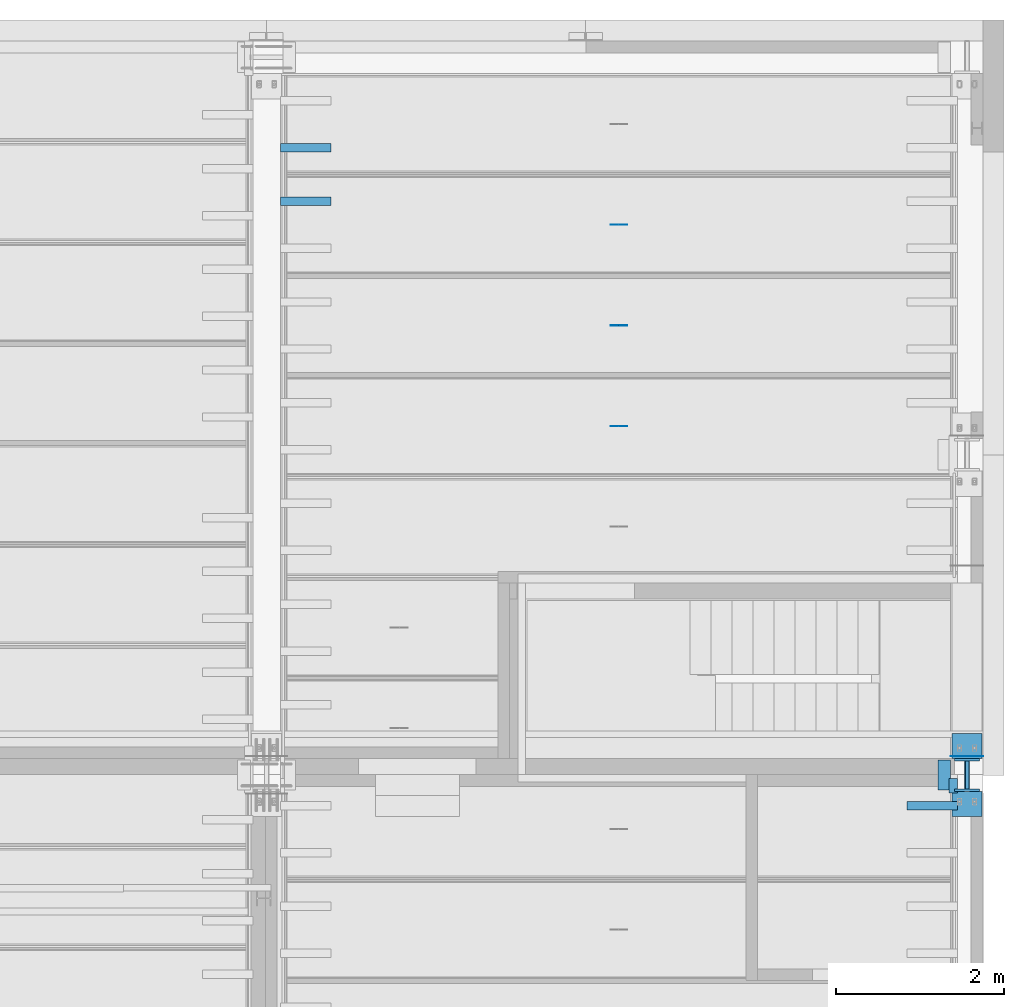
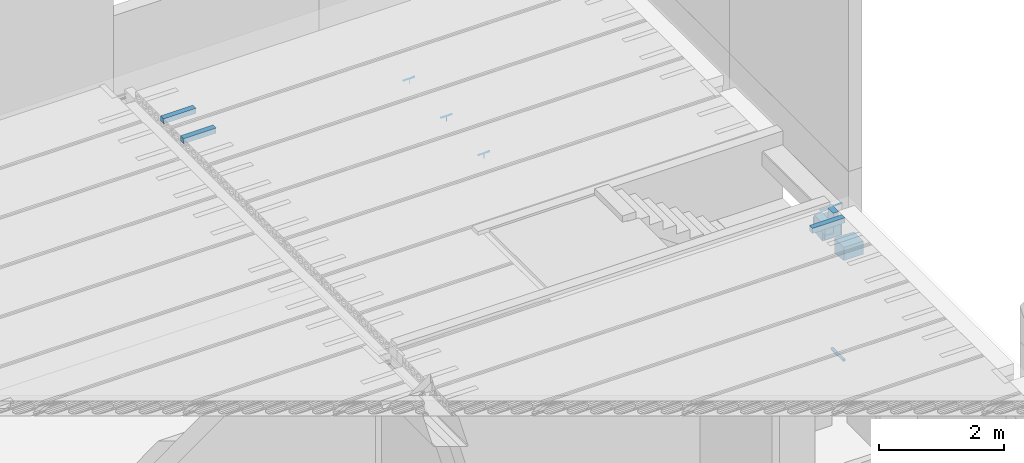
# One storey, part 27 of 230: 17 beams.
"""IFC4X3_ADD2 building model written with IfcOpenShell, lengths in millimetres."""

import ifcopenshell
import ifcopenshell.guid

model = None  # the IFC model being written
_history = None  # IfcOwnerHistory: only IFC2X3 demands one
_inside = {}  # id of a spatial element -> (the spatial element, [elements in it])
_under = {}  # id of a project, library or spatial element -> (it, [spatial elements below it])
_declared = {}  # id of a project -> (the project, [libraries it declares])
_typed = {}  # id of a type object -> (the type object, [elements of that type])
_made_of = {}  # id of a material, layer set ... -> (it, [elements and type objects made of it])


def new_model(schema):
    """Start an empty IFC model of exactly this schema.

    Asked for "IFC4X3", IfcOpenShell would pick the latest addendum, in which some entities
    have other attributes; the version numbers below select the first issue.
    IFC2X3 requires an IfcOwnerHistory on every rooted entity: one is made here for all.
    """
    global model, _history
    if schema == "IFC4X3":
        model = ifcopenshell.file(schema_version=(4, 3, 0, 0))
    else:
        model = ifcopenshell.file(schema=schema)
    _inside.clear()
    _under.clear()
    _declared.clear()
    _typed.clear()
    _made_of.clear()
    _history = None
    if model.schema == "IFC2X3":
        org = make("IfcOrganization", Name="unknown")
        user = make(
            "IfcPersonAndOrganization",
            ThePerson=make("IfcPerson", FamilyName="unknown"),
            TheOrganization=org,
        )
        app = make(
            "IfcApplication",
            ApplicationDeveloper=org,
            Version="unknown",
            ApplicationFullName="unknown",
            ApplicationIdentifier="unknown",
        )
        _history = make(
            "IfcOwnerHistory",
            OwningUser=user,
            OwningApplication=app,
            ChangeAction="ADDED",
            CreationDate=0,
        )
    return model


def make(cls, **values):
    """One entity of the class cls with the attributes given. An attribute that is None is left unset."""
    return model.create_entity(
        cls, **{name: value for name, value in values.items() if value is not None}
    )


def entity(cls, *values):
    """Any entity or typed value of the class cls, its attributes in the order of the schema. None: left unset."""
    e = model.create_entity(cls)
    for i, value in enumerate(values):
        if value is not None:
            e[i] = value
    return e


def rooted(cls, **values):
    """An entity with a GlobalId (a new one), such as an element, a storey or a relation."""
    return make(cls, GlobalId=ifcopenshell.guid.new(), OwnerHistory=_history, **values)


def si_unit(unit_type, name, prefix=None):
    """IfcSIUnit, for example si_unit("LENGTHUNIT", "METRE", prefix="MILLI")."""
    return make("IfcSIUnit", UnitType=unit_type, Prefix=prefix, Name=name)


def assignment(units):
    """IfcUnitAssignment: the units of a project."""
    return None if units is None else make("IfcUnitAssignment", Units=units)


def point(xyz):
    """IfcCartesianPoint."""
    return None if xyz is None else make("IfcCartesianPoint", Coordinates=xyz)


def direction(xyz):
    """IfcDirection."""
    return None if xyz is None else make("IfcDirection", DirectionRatios=xyz)


def frame(location, z_axis=None, x_axis=None):
    """IfcAxis2Placement3D, a coordinate frame: its origin and axes. An axis left out is left unset."""
    return make(
        "IfcAxis2Placement3D",
        Location=point(location),
        Axis=direction(z_axis),
        RefDirection=direction(x_axis),
    )


def frame_2d(location, x_axis=None):
    """IfcAxis2Placement2D, a coordinate frame in the plane: its origin and x axis."""
    return make(
        "IfcAxis2Placement2D", Location=point(location), RefDirection=direction(x_axis)
    )


def origin_with_axes():
    """The frame at (0, 0, 0) with the z axis (0, 0, 1) and the x axis (1, 0, 0) written out."""
    return frame((0.0, 0.0, 0.0), z_axis=(0.0, 0.0, 1.0), x_axis=(1.0, 0.0, 0.0))


def place(relative_to, where):
    """IfcLocalPlacement: puts the frame where relative to a parent placement (None: the world)."""
    return make(
        "IfcLocalPlacement", PlacementRelTo=relative_to, RelativePlacement=where
    )


def context(
    kind, dimensions, precision=None, world=None, true_north=None, identifier=None
):
    """IfcGeometricRepresentationContext, for example the 3D "Model" context."""
    return make(
        "IfcGeometricRepresentationContext",
        ContextIdentifier=identifier,
        ContextType=kind,
        CoordinateSpaceDimension=dimensions,
        Precision=precision,
        WorldCoordinateSystem=world,
        TrueNorth=true_north,
    )


def subcontext(parent, identifier, kind, view, scale=None):
    """IfcGeometricRepresentationSubContext, for example "Body" below "Model"."""
    return make(
        "IfcGeometricRepresentationSubContext",
        ContextIdentifier=identifier,
        ContextType=kind,
        ParentContext=parent,
        TargetScale=scale,
        TargetView=view,
    )


def project(units=None, contexts=None):
    """IfcProject with its units and contexts."""
    return rooted(
        "IfcProject",
        Name="project",
        RepresentationContexts=contexts,
        UnitsInContext=assignment(units),
    )


def spatial(cls, under=None, at=None, **own):
    """A site, building, storey or space (cls), placed at a placement, below another one or the project."""
    s = rooted(cls, ObjectPlacement=at, **own)
    if under is not None:
        _under.setdefault(under.id(), (under, []))[1].append(s)
    return s


def profile(cls, at=None, kind="AREA", **sizes):
    """A parametric profile (cls). Its sizes go by their IFC names, for example OverallWidth=200.0."""
    return make(cls, ProfileType=kind, Position=at, **sizes)


def rectangle(**sizes):
    """IfcRectangleProfileDef."""
    return profile("IfcRectangleProfileDef", **sizes)


def hollow_circle(**sizes):
    """IfcCircleHollowProfileDef."""
    return profile("IfcCircleHollowProfileDef", **sizes)


def extrude(swept, where, along, depth):
    """IfcExtrudedAreaSolid: the profile swept, set in the frame where, extruded along a direction by depth."""
    return make(
        "IfcExtrudedAreaSolid",
        SweptArea=swept,
        Position=where,
        ExtrudedDirection=direction(along),
        Depth=depth,
    )


def shape(context_of_items, identifier, shape_type, items):
    """IfcShapeRepresentation: the items that make up one representation, for example the "Body"."""
    return make(
        "IfcShapeRepresentation",
        ContextOfItems=context_of_items,
        RepresentationIdentifier=identifier,
        RepresentationType=shape_type,
        Items=items,
    )


def material(Name=None, Category=None):
    """IfcMaterial."""
    return make("IfcMaterial", Name=Name, Category=Category)


def made_of(thing, what):
    """Note that an element or type object is made of a material, layer set ...; save() writes the relation."""
    if what is not None:
        _made_of.setdefault(what.id(), (what, []))[1].append(thing)
    return thing


def element(
    cls,
    number,
    at=None,
    inside=None,
    cuts=None,
    type_object=None,
    material=None,
    context=None,
    identifier="Body",
    shape_type=None,
    held_by="IfcProductDefinitionShape",
    body=None,
    shapes=None,
    **own,
):
    """One element of the class cls, such as IfcWall. Its Tag is "e" and its number.

    at: its placement. inside: the storey or other place that contains it. cuts: it is an
    opening in that element (IfcRelVoidsElement). A single representation is given by context,
    identifier, shape_type and body (its items); several are given by shapes. held_by: the class
    of the entity that holds the representations. save() writes the other relations.
    """
    e = rooted(cls, Tag="e%d" % number, ObjectPlacement=at, **own)
    if body is not None:
        shapes = [shape(context, identifier, shape_type, body)]
    if shapes is not None:
        e.Representation = make(held_by, Representations=shapes)
    if inside is not None:
        _inside.setdefault(inside.id(), (inside, []))[1].append(e)
    if cuts is not None:
        rooted(
            "IfcRelVoidsElement", RelatingBuildingElement=cuts, RelatedOpeningElement=e
        )
    if type_object is not None:
        _typed.setdefault(type_object.id(), (type_object, []))[1].append(e)
    return made_of(e, material)


def aggregate(whole, parts):
    """IfcRelAggregates: a whole, such as a stair, and the parts it consists of."""
    return rooted("IfcRelAggregates", RelatingObject=whole, RelatedObjects=parts)


def save(model, path):
    """Write the relations noted so far, then the file.

    IfcRelAggregates (storeys below a building ...), IfcRelContainedInSpatialStructure (elements
    in a storey), IfcRelDefinesByType, IfcRelAssociatesMaterial and IfcRelDeclares: one each for
    every whole, place, type object, material and project.
    """
    for whole, parts in _under.values():
        aggregate(whole, parts)
    for where, things in _inside.values():
        rooted(
            "IfcRelContainedInSpatialStructure",
            RelatedElements=things,
            RelatingStructure=where,
        )
    for kind, things in _typed.values():
        rooted("IfcRelDefinesByType", RelatedObjects=things, RelatingType=kind)
    for what, things in _made_of.values():
        rooted("IfcRelAssociatesMaterial", RelatedObjects=things, RelatingMaterial=what)
    for by, libraries in _declared.values():
        rooted("IfcRelDeclares", RelatingContext=by, RelatedDefinitions=libraries)
    model.write(path)


model = new_model("IFC4X3_ADD2")

# Units and contexts
model_context = context("Model", 3, precision=1e-05, world=origin_with_axes(), true_north=direction((0.0, 1.0)))
body_context = subcontext(model_context, "Body", "Model", "MODEL_VIEW")
ifc_project = project(units=[si_unit("LENGTHUNIT", "METRE", prefix="MILLI"), si_unit("AREAUNIT", "SQUARE_METRE"), si_unit("VOLUMEUNIT", "CUBIC_METRE"), si_unit("PLANEANGLEUNIT", "RADIAN"), si_unit("TIMEUNIT", "SECOND"), si_unit("MASSUNIT", "GRAM")], contexts=[model_context])

# Site, building, storey
site_placement = place(None, origin_with_axes())
site = spatial("IfcSite", under=ifc_project, at=site_placement, Name="Site", CompositionType="ELEMENT")
building_placement = place(site_placement, origin_with_axes())
building = spatial("IfcBuilding", under=site, at=building_placement, Name="IFC Building Story")
storey_placement = place(building_placement, origin_with_axes())
storey = spatial("IfcBuildingStorey", under=building, at=storey_placement, Name="ETAGE 00 (0)", Elevation=0.0)

# Beams
ifc_material_1 = material(Name="STEEL/Accessory_C50/60 64192")
for number, where, z_axis, x_axis, name in (
    (1, (48131.1886362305, 17459.9996109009, 3540.0), (1.0, 0.0, 0.0), (0.0, 0.0, 1.0), "BEK1"),
    (2, (48491.18863623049, 18149.9996109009, 3540.0), (-1.0, 0.0, 0.0), (0.0, 0.0, 1.0), "BEK1"),
):
    element("IfcBeam", number, at=place(storey_placement, frame(where, z_axis=z_axis, x_axis=x_axis)), inside=storey, material=ifc_material_1, Name=name, ObjectType="CORBEL300-300-260", context=body_context, shape_type="SweptSolid", body=[
        extrude(entity("IfcTrapeziumProfileDef", "AREA", None, entity("IfcAxis2Placement2D", entity("IfcCartesianPoint", [0.0, 5.95523630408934e-12]), entity("IfcDirection", [1.0, 0.0])), 300.0, 260.0, 300.0, 40.0), origin_with_axes(), (0.0, 0.0, 1.0), 359.9999999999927),
    ])
beam_1_placement = place(storey_placement, frame((48041.1886362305, 17984.9996109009, 3875.0), z_axis=(0.0, -1.0, 0.0), x_axis=(0.0, 0.0, 1.0)))
element("IfcBeam", 3, at=beam_1_placement, inside=storey, material=ifc_material_1, Name="BEK1", ObjectType="CORBEL200-150-180", context=body_context, shape_type="SweptSolid", body=[
    extrude(entity("IfcTrapeziumProfileDef", "AREA", None, entity("IfcAxis2Placement2D", entity("IfcCartesianPoint", [0.0, 5.95523630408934e-12]), entity("IfcDirection", [1.0, 0.0])), 200.0, 180.0, 150.0, 19.9999999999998), origin_with_axes(), (0.0, 0.0, 1.0), 360.0),
])
ifc_material_2 = material(Name="STEEL/Accessory_invisible 261")
beam_2_placement = place(storey_placement, frame((44164.189, 21960.0006103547, 4049.9999909), z_axis=(-1.0, 0.0, 0.0), x_axis=(0.0, 0.0, -1.0)))
element("IfcBeam", 4, at=beam_2_placement, inside=storey, material=ifc_material_2, Name="ES6", ObjectType="1*1 2", context=body_context, shape_type="SweptSolid", body=[
    extrude(rectangle(XDim=100.0, YDim=0.9999999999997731, at=frame_2d((0.0, 5.95523630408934e-12), x_axis=(1.0, 0.0))), origin_with_axes(), (0.0, 0.0, 1.0), 1.0),
])
beam_3_placement = place(storey_placement, frame((44263.689, 21960.0006103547, 4100.0), z_axis=(-1.0, 0.0, 0.0), x_axis=(0.0, 1.0, 0.0)))
element("IfcBeam", 5, at=beam_3_placement, inside=storey, material=ifc_material_2, Name="ES31", ObjectType="1*1 3", context=body_context, shape_type="SweptSolid", body=[
    extrude(rectangle(XDim=0.9999999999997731, YDim=0.9999999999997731, at=frame_2d((0.0, 5.95523630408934e-12), x_axis=(1.0, 0.0))), origin_with_axes(), (0.0, 0.0, 1.0), 199.9999999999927),
])
ifc_material_3 = material(Name="STEEL/Accessory_invisible")
beam_4_placement = place(storey_placement, frame((48196.18900000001, 17675.0, 4100.0), z_axis=(-1.0, 0.0, 0.0), x_axis=(0.0, 0.0, 1.0)))
element("IfcBeam", 6, at=beam_4_placement, inside=storey, material=ifc_material_3, Name="ES32", ObjectType="200*170", context=body_context, shape_type="SweptSolid", body=[
    extrude(rectangle(XDim=200.0, YDim=169.999999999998, at=frame_2d((0.0, 5.95523630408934e-12), x_axis=(1.0, 0.0))), origin_with_axes(), (0.0, 0.0, 1.0), 100.0),
])
beam_5_placement = place(storey_placement, frame((48196.18900000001, 17440.0, 4150.0), z_axis=(-1.0, 0.0, 0.0), x_axis=(0.0, -1.0, 0.0)))
element("IfcBeam", 7, at=beam_5_placement, inside=storey, material=ifc_material_3, Name="ES7", ObjectType="100*100", context=body_context, shape_type="SweptSolid", body=[
    extrude(rectangle(XDim=100.0, YDim=99.99999999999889, at=frame_2d((0.0, 5.95523630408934e-12), x_axis=(1.0, 0.0))), origin_with_axes(), (0.0, 0.0, 1.0), 600.0),
])
ifc_material_4 = material(Name="STEEL/Accessory_EPS")
for number, where, z_axis, x_axis, name in (
    (8, (48461.1886362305, 17624.9996109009, 3544.99999999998), (-1.0, 0.0, 0.0), (0.0, 0.0, 1.0), "POL4"),
    (9, (48461.1886362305, 17984.9996109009, 3544.99999999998), (-1.0, 0.0, 0.0), (0.0, 0.0, 1.0), "POL4"),
):
    element("IfcBeam", number, at=place(storey_placement, frame(where, z_axis=z_axis, x_axis=x_axis)), inside=storey, material=ifc_material_4, Name=name, ObjectType="30*300", context=body_context, shape_type="SweptSolid", body=[
        extrude(rectangle(XDim=250.0, YDim=30.0000000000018, at=frame_2d((0.0, 5.95523630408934e-12), x_axis=(1.0, 0.0))), origin_with_axes(), (0.0, 0.0, 1.0), 300.0),
    ])
ifc_material_5 = material(Name="STEEL/Accessory_PVC")
beam_6_placement = place(storey_placement, frame((48311.1886362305, 17612.9996109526, 1240.0), z_axis=(0.0, 1.0, 0.0), x_axis=(1.0, 0.0, 0.0)))
element("IfcBeam", 10, at=beam_6_placement, inside=storey, material=ifc_material_5, Name="PS13", ObjectType="O56*3", context=body_context, shape_type="SweptSolid", body=[
    extrude(hollow_circle(Radius=28.0, WallThickness=3.0, at=frame_2d((0.0, 5.95523630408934e-12), x_axis=(1.0, 0.0))), origin_with_axes(), (0.0, 0.0, 1.0), 384.0),
])
beam_7_placement = place(storey_placement, frame((48505.586, 18029.9996109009, 3984.5), z_axis=(-1.0, 0.0, 0.0), x_axis=(0.0, 1.0, 0.0)))
element("IfcBeam", 11, at=beam_7_placement, inside=storey, material=ifc_material_3, Name="ZW3", ObjectType="1*1 3", context=body_context, shape_type="SweptSolid", body=[
    extrude(rectangle(XDim=0.9999999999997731, YDim=0.9999999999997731, at=frame_2d((0.0, 5.95523630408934e-12), x_axis=(1.0, 0.0))), origin_with_axes(), (0.0, 0.0, 1.0), 389.9000000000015),
])
beam_8_placement = place(storey_placement, frame((44164.189, 23160.0006103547, 4049.9999909), z_axis=(-1.0, 0.0, 0.0), x_axis=(0.0, 0.0, -1.0)))
element("IfcBeam", 12, at=beam_8_placement, inside=storey, material=ifc_material_2, Name="ES6", ObjectType="1*1 2", context=body_context, shape_type="SweptSolid", body=[
    extrude(rectangle(XDim=100.0, YDim=0.9999999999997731, at=frame_2d((0.0, 5.95523630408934e-12), x_axis=(1.0, 0.0))), origin_with_axes(), (0.0, 0.0, 1.0), 1.0),
])
beam_9_placement = place(storey_placement, frame((44263.689, 23160.0006103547, 4100.0), z_axis=(-1.0, 0.0, 0.0), x_axis=(0.0, 1.0, 0.0)))
element("IfcBeam", 13, at=beam_9_placement, inside=storey, material=ifc_material_2, Name="ES31", ObjectType="1*1 3", context=body_context, shape_type="SweptSolid", body=[
    extrude(rectangle(XDim=0.9999999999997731, YDim=0.9999999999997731, at=frame_2d((0.0, 5.95523630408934e-12), x_axis=(1.0, 0.0))), origin_with_axes(), (0.0, 0.0, 1.0), 199.9999999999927),
])
beam_10_placement = place(storey_placement, frame((40731.189, 24640.0006103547, 4150.0), z_axis=(-1.0, 0.0, 0.0), x_axis=(0.0, 1.0, 0.0)))
element("IfcBeam", 14, at=beam_10_placement, inside=storey, material=ifc_material_3, Name="ES7", ObjectType="100*100", context=body_context, shape_type="SweptSolid", body=[
    extrude(rectangle(XDim=100.0, YDim=99.99999999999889, at=frame_2d((0.0, 5.95523630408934e-12), x_axis=(1.0, 0.0))), origin_with_axes(), (0.0, 0.0, 1.0), 600.0),
])
beam_11_placement = place(storey_placement, frame((44164.189, 24360.0006103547, 4049.9999909), z_axis=(-1.0, 0.0, 0.0), x_axis=(0.0, 0.0, -1.0)))
element("IfcBeam", 15, at=beam_11_placement, inside=storey, material=ifc_material_2, Name="ES6", ObjectType="1*1 2", context=body_context, shape_type="SweptSolid", body=[
    extrude(rectangle(XDim=100.0, YDim=0.9999999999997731, at=frame_2d((0.0, 5.95523630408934e-12), x_axis=(1.0, 0.0))), origin_with_axes(), (0.0, 0.0, 1.0), 1.0),
])
beam_12_placement = place(storey_placement, frame((44263.689, 24360.0006103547, 4100.0), z_axis=(-1.0, 0.0, 0.0), x_axis=(0.0, 1.0, 0.0)))
element("IfcBeam", 16, at=beam_12_placement, inside=storey, material=ifc_material_2, Name="ES31", ObjectType="1*1 3", context=body_context, shape_type="SweptSolid", body=[
    extrude(rectangle(XDim=0.9999999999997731, YDim=0.9999999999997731, at=frame_2d((0.0, 5.95523630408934e-12), x_axis=(1.0, 0.0))), origin_with_axes(), (0.0, 0.0, 1.0), 199.9999999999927),
])
beam_13_placement = place(storey_placement, frame((40731.189, 25280.0006103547, 4150.0), z_axis=(-1.0, 0.0, 0.0), x_axis=(0.0, 1.0, 0.0)))
element("IfcBeam", 17, at=beam_13_placement, inside=storey, material=ifc_material_3, Name="ES7", ObjectType="100*100", context=body_context, shape_type="SweptSolid", body=[
    extrude(rectangle(XDim=100.0, YDim=99.99999999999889, at=frame_2d((0.0, 5.95523630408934e-12), x_axis=(1.0, 0.0))), origin_with_axes(), (0.0, 0.0, 1.0), 600.0),
])

save(model, "model.ifc")
